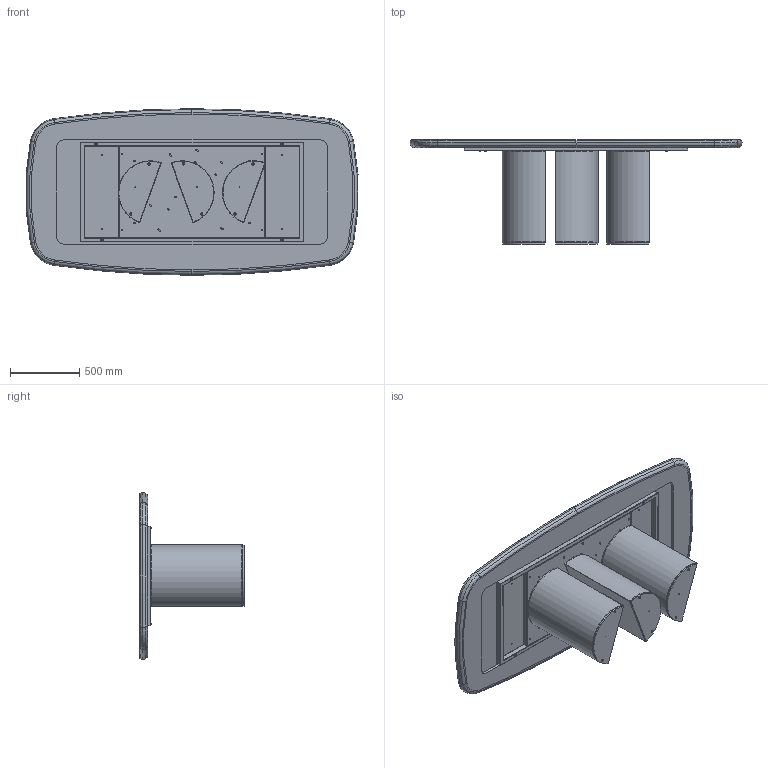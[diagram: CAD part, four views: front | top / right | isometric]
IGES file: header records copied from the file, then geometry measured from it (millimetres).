
Start section: SolidWorks IGES file using analytic representation for surfaces
Global section: file name: Y:\eforma\TECNICO\SOLIDWORKS\E-FORMA\1-TAVOLI\PLAI\08 modelli 3D web\PL22K_Plai_240x120_King.IGS; native system: SolidWorks 2022; preprocessor: SolidWorks 2022; author: eforma.tech; date: 240802.083228; units: millimetre
Bounding box: 2391.93 x 750 x 1200 mm (x, y, z)
Volume: 129001045.6 mm3; surface area: 19458436.1 mm2
Topology: 33 solids, 33 shells, 1047 faces, 2394 edges, 1394 vertices
Faces by surface type: revolution 620, plane 427
